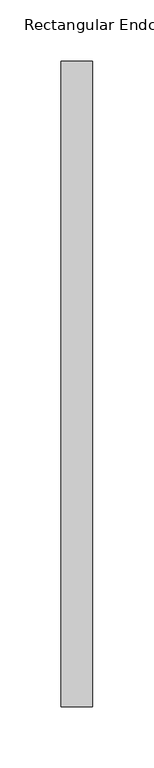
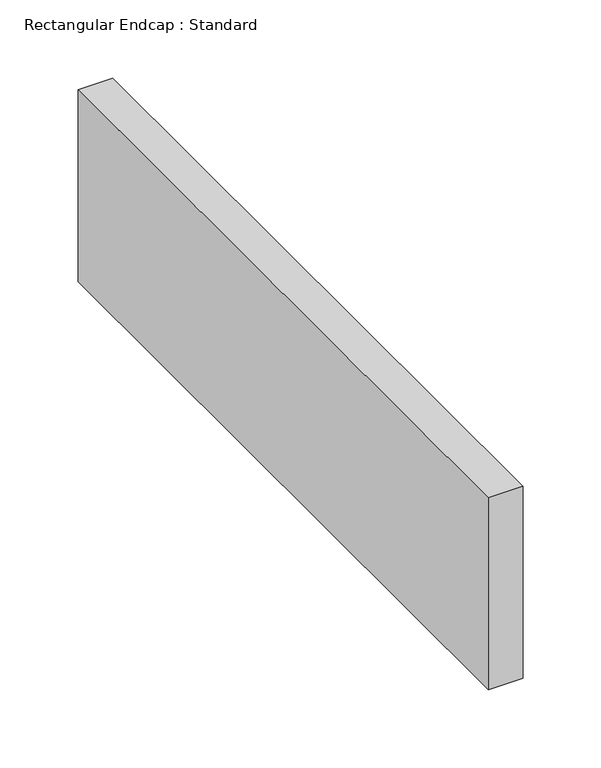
"""IFC4 building model written with IfcOpenShell, lengths in millimetres: duct fitting geometry, Rectangular Endcap : Standard."""

from ifc_helpers import new_model, si_unit, frame, origin, place, context, project, spatial, polyline, outline, extrude, source, transform, mapped, element, save


def rectangular_endcap_standard_582b4bbf(model_context):
    return source(origin(), model_context, "Body", "SweptSolid", [
        extrude(outline(polyline([(0.0, -262.5), (0.0, 262.5), (25.4, 262.5), (25.4, -262.5), (0.0, -262.5)])), frame((0.0, 0.0, -75.0), z_axis=(0.0, 0.0, 1.0), x_axis=(1.0, 0.0, 0.0)), (0.0, 0.0, 1.0), 150.0),
    ])


if __name__ == "__main__":
    model = new_model("IFC4")
    model_context = context("Model", 3, world=origin())
    ifc_project = project(units=[si_unit("LENGTHUNIT", "METRE", prefix="MILLI")], contexts=[model_context])
    site = spatial("IfcSite", under=ifc_project)
    building = spatial("IfcBuilding", under=site)
    placement = place(None, origin())
    rectangular_endcap_standard_shape = rectangular_endcap_standard_582b4bbf(model_context)
    element("IfcDuctFitting", 1, ObjectType="Rectangular Endcap : Standard", at=placement, inside=building, context=model_context, shape_type="MappedRepresentation", body=[
        mapped(rectangular_endcap_standard_shape, transform((0.0, 0.0, 0.0), x_axis=(1.0, 0.0, 0.0), y_axis=(0.0, 1.0, 0.0), z_axis=(0.0, 0.0, 1.0))),
    ])
    save(model, "model.ifc")
